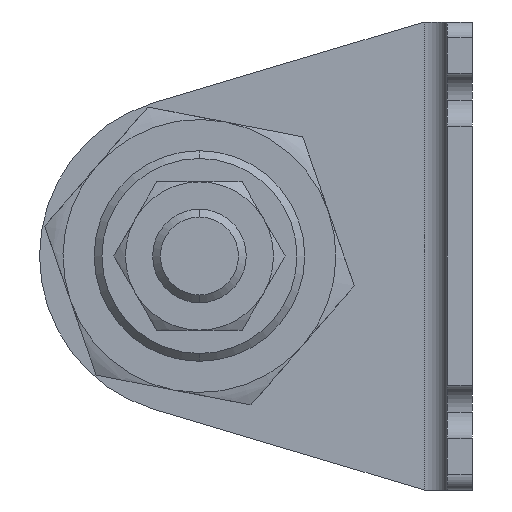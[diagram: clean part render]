
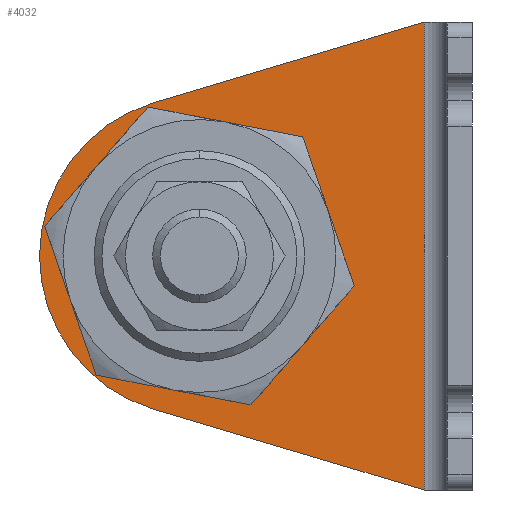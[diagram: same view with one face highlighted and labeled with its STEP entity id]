
A CAD part, left-side view. The second image highlights one B-rep face of the part: STEP entity #4032.
In plain terms, the highlighted planar face has unit normal (-1, 0, 0) as drawn and (1, 0, 0) by its records, which use the part's own axes.
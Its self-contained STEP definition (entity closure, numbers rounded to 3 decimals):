
#20 = CARTESIAN_POINT ( 'NONE',  ( 3.2, 35., -30. ) ) ;
#81 = VERTEX_POINT ( 'NONE', #518 ) ;
#234 = VERTEX_POINT ( 'NONE', #4125 ) ;
#281 = DIRECTION ( 'NONE',  ( 0., 1., 0. ) ) ;
#356 = EDGE_LOOP ( 'NONE', ( #932, #4423, #3647, #1269, #3107 ) ) ;
#437 = EDGE_LOOP ( 'NONE', ( #1337, #3883 ) ) ;
#443 = CARTESIAN_POINT ( 'NONE',  ( 3.2, 35., -30. ) ) ;
#518 = CARTESIAN_POINT ( 'NONE',  ( 3.2, 40.868, -49.642 ) ) ;
#709 = EDGE_CURVE ( 'NONE', #896, #81, #3919, .T. ) ;
#896 = VERTEX_POINT ( 'NONE', #4362 ) ;
#897 = LINE ( 'NONE', #1340, #1868 ) ;
#910 = CARTESIAN_POINT ( 'NONE',  ( 3.2, 35., -30. ) ) ;
#932 = ORIENTED_EDGE ( 'NONE', *, *, #709, .T. ) ;
#1046 = DIRECTION ( 'NONE',  ( 1., 0., 0. ) ) ;
#1053 = CARTESIAN_POINT ( 'NONE',  ( 3.2, 48.5, -30. ) ) ;
#1181 = DIRECTION ( 'NONE',  ( 0., 1., 0. ) ) ;
#1269 = ORIENTED_EDGE ( 'NONE', *, *, #3406, .F. ) ;
#1294 = CARTESIAN_POINT ( 'NONE',  ( 3.2, 35., -30. ) ) ;
#1337 = ORIENTED_EDGE ( 'NONE', *, *, #2487, .F. ) ;
#1340 = CARTESIAN_POINT ( 'NONE',  ( 3.2, 6.2, -60. ) ) ;
#1410 = CARTESIAN_POINT ( 'NONE',  ( 3.2, 40.868, -10.358 ) ) ;
#1563 = VECTOR ( 'NONE', #3137, 1000. ) ;
#1611 = CARTESIAN_POINT ( 'NONE',  ( 3.2, 19.903, -4.094 ) ) ;
#1782 = CIRCLE ( 'NONE', #3938, 20.5 ) ;
#1821 = AXIS2_PLACEMENT_3D ( 'NONE', #910, #2668, #281 ) ;
#1868 = VECTOR ( 'NONE', #2514, 1000. ) ;
#1884 = CARTESIAN_POINT ( 'NONE',  ( 3.2, 3.446, -60.823 ) ) ;
#1934 = AXIS2_PLACEMENT_3D ( 'NONE', #20, #2563, #1181 ) ;
#1936 = CARTESIAN_POINT ( 'NONE',  ( 3.2, 21.5, -30. ) ) ;
#1941 = DIRECTION ( 'NONE',  ( 1., 0., 0. ) ) ;
#2155 = VERTEX_POINT ( 'NONE', #1410 ) ;
#2165 = FACE_BOUND ( 'NONE', #437, .T. ) ;
#2364 = PLANE ( 'NONE',  #4152 ) ;
#2451 = VERTEX_POINT ( 'NONE', #1053 ) ;
#2487 = EDGE_CURVE ( 'NONE', #2451, #3983, #2603, .T. ) ;
#2514 = DIRECTION ( 'NONE',  ( 0., 0., -1. ) ) ;
#2563 = DIRECTION ( 'NONE',  ( 1., 0., 0. ) ) ;
#2587 = CIRCLE ( 'NONE', #1934, 13.5 ) ;
#2603 = CIRCLE ( 'NONE', #1821, 13.5 ) ;
#2652 = VERTEX_POINT ( 'NONE', #3016 ) ;
#2668 = DIRECTION ( 'NONE',  ( 1., 0., 0. ) ) ;
#2924 = EDGE_CURVE ( 'NONE', #81, #234, #1782, .T. ) ;
#2977 = AXIS2_PLACEMENT_3D ( 'NONE', #1294, #4299, #3514 ) ;
#3016 = CARTESIAN_POINT ( 'NONE',  ( 3.2, 6.2, 0. ) ) ;
#3107 = ORIENTED_EDGE ( 'NONE', *, *, #3810, .T. ) ;
#3136 = DIRECTION ( 'NONE',  ( 0., 1., 0. ) ) ;
#3137 = DIRECTION ( 'NONE',  ( 0., 0.958, 0.286 ) ) ;
#3259 = EDGE_CURVE ( 'NONE', #234, #2155, #3892, .T. ) ;
#3353 = DIRECTION ( 'NONE',  ( 0., 1., 0. ) ) ;
#3406 = EDGE_CURVE ( 'NONE', #2652, #2155, #4106, .T. ) ;
#3514 = DIRECTION ( 'NONE',  ( 0., 1., 0. ) ) ;
#3545 = EDGE_CURVE ( 'NONE', #3983, #2451, #2587, .T. ) ;
#3647 = ORIENTED_EDGE ( 'NONE', *, *, #3259, .T. ) ;
#3702 = CARTESIAN_POINT ( 'NONE',  ( 3.2, 3.2, -60. ) ) ;
#3810 = EDGE_CURVE ( 'NONE', #2652, #896, #897, .T. ) ;
#3883 = ORIENTED_EDGE ( 'NONE', *, *, #3545, .F. ) ;
#3892 = CIRCLE ( 'NONE', #2977, 20.5 ) ;
#3919 = LINE ( 'NONE', #1884, #1563 ) ;
#3938 = AXIS2_PLACEMENT_3D ( 'NONE', #443, #1046, #3353 ) ;
#3983 = VERTEX_POINT ( 'NONE', #1936 ) ;
#4032 = ADVANCED_FACE ( 'NONE', ( #2165, #4070 ), #2364, .T. ) ;
#4070 = FACE_OUTER_BOUND ( 'NONE', #356, .T. ) ;
#4104 = DIRECTION ( 'NONE',  ( 0., 0.958, -0.286 ) ) ;
#4106 = LINE ( 'NONE', #1611, #4112 ) ;
#4112 = VECTOR ( 'NONE', #4104, 1000. ) ;
#4125 = CARTESIAN_POINT ( 'NONE',  ( 3.2, 55.5, -30. ) ) ;
#4152 = AXIS2_PLACEMENT_3D ( 'NONE', #3702, #1941, #3136 ) ;
#4299 = DIRECTION ( 'NONE',  ( 1., 0., 0. ) ) ;
#4362 = CARTESIAN_POINT ( 'NONE',  ( 3.2, 6.2, -60. ) ) ;
#4423 = ORIENTED_EDGE ( 'NONE', *, *, #2924, .T. ) ;
